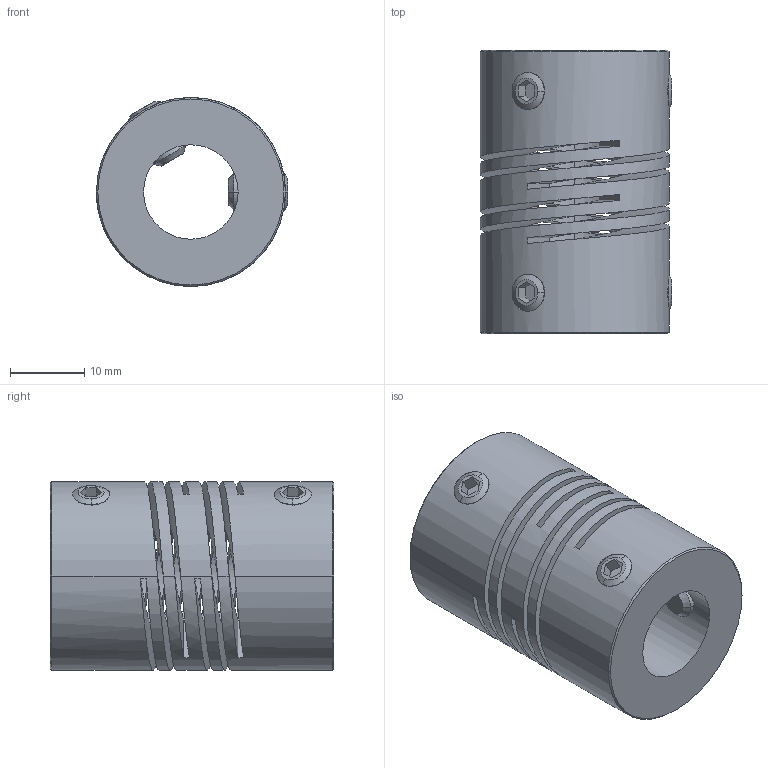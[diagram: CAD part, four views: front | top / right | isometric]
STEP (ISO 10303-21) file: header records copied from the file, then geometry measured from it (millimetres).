
FILE_DESCRIPTION((''),'2;1');
FILE_NAME('726_25_ASM','2006-12-05T',('Gary Melling'),(''),'PRO/ENGINEER BY PARAMETRIC TECHNOLOGY CORPORATION, 2006240','PRO/ENGINEER BY PARAMETRIC TECHNOLOGY CORPORATION, 2006240','');
FILE_SCHEMA(('CONFIG_CONTROL_DESIGN'));
Length unit declared in the file: millimetre
Products named in the file (3): 726_25; GS_5; 726_25_ASM
Assembly tree (5 placements, depth 2):
  726_25_ASM
    726_25
    GS_5  x4
Bounding box: 25.7 x 38.1 x 25.4 mm (x, y, z)
Volume: 12769.4 mm3; surface area: 9483.1 mm2
Topology: 5 solids, 5 shells, 116 faces, 316 edges, 200 vertices
Faces by surface type: plane 52, cylinder 32, cone 20, bspline 12
Entity records: 4416 total; most frequent: CARTESIAN_POINT 2485, ORIENTED_EDGE 440, DIRECTION 306, EDGE_CURVE 220, VERTEX_POINT 140, VECTOR 116, LINE 116, AXIS2_PLACEMENT_3D 95
